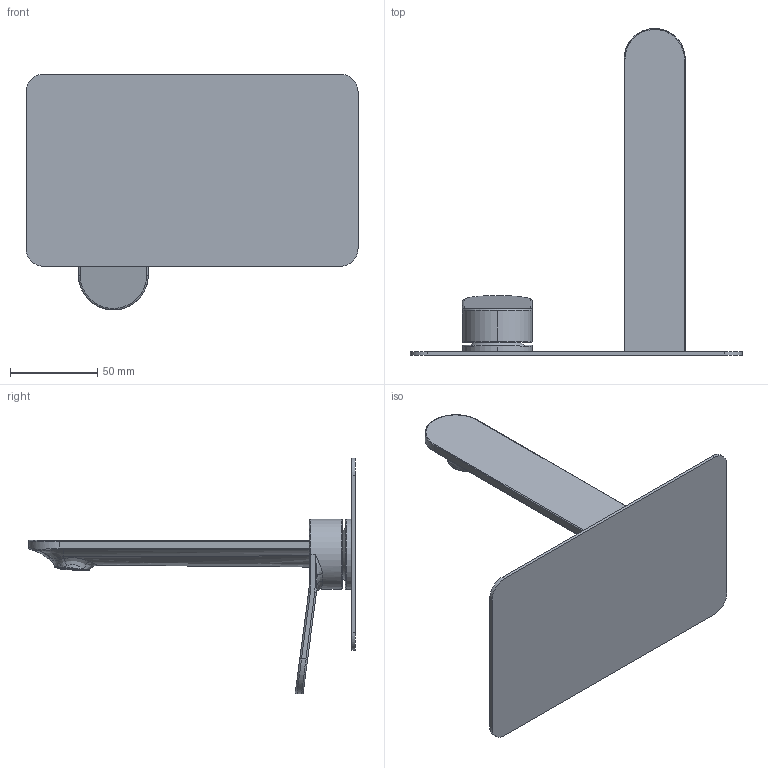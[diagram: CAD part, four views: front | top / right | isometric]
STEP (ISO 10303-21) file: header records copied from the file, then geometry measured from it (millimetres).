
FILE_DESCRIPTION (( 'STEP AP214' ), '1' );
FILE_NAME ('82328210 x architetti.STEP', '2025-01-13T14:41:40', ( '' ), ( '' ), 'SwSTEP 2.0', 'SolidWorks 2020', '' );
FILE_SCHEMA (( 'AUTOMOTIVE_DESIGN' ));
Length unit declared in the file: millimetre
Products named in the file (3): 82328210 x architetti; F0005899
Assembly tree (2 placements, depth 2):
  82328210 x architetti
    82328210 x architetti
    F0005899
Bounding box: 190 x 187 x 135 mm (x, y, z)
Volume: 157696.1 mm3; surface area: 69004.9 mm2
Topology: 2 solids, 2 shells, 3926 faces, 10042 edges, 6485 vertices
Faces by surface type: plane 2984, cone 419, cylinder 388, bspline 135
Entity records: 158849 total; most frequent: CARTESIAN_POINT 44630, ORIENTED_EDGE 20080, DIRECTION 12472, EDGE_CURVE 10040, VERTEX_POINT 6485, B_SPLINE_CURVE_WITH_KNOTS 5102, EDGE_LOOP 4293, AXIS2_PLACEMENT_3D 4167
